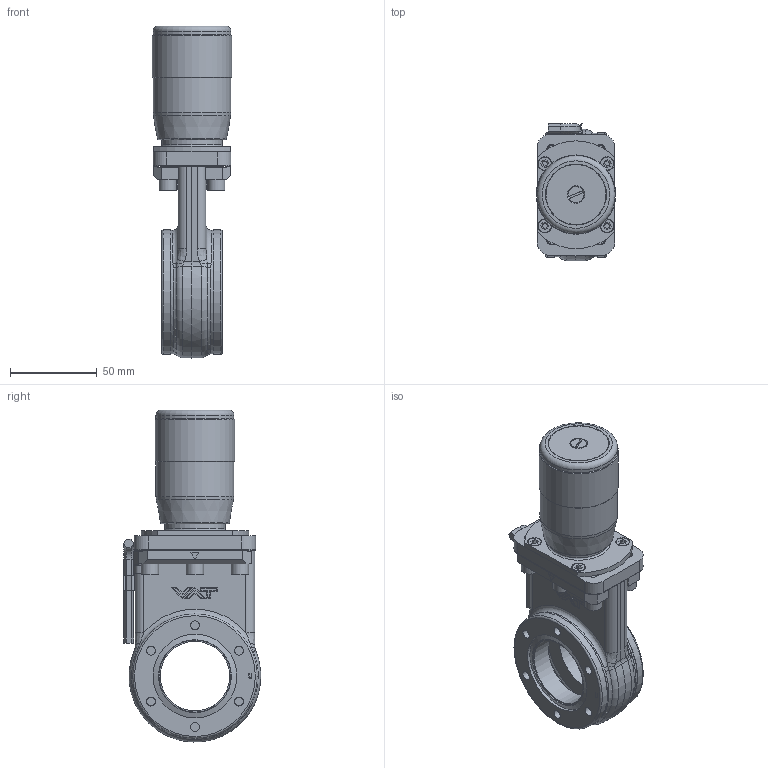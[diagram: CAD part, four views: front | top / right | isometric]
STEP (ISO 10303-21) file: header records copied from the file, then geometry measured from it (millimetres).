
FILE_DESCRIPTION(/* description */ (''),/* implementation_level */ '2;1');
FILE_NAME(/* name */ '1025368480_203',/* time_stamp */ '2009-09-08T15:25:41+02:00',/* author */ (''),/* organization */ (''),/* preprocessor_version */ 'ST-DEVELOPER v11',/* originating_system */ 'UGS - NX 5.0',/* authorisation */ '');
FILE_SCHEMA (('CONFIG_CONTROL_DESIGN'));
Length unit declared in the file: millimetre
Products named in the file (18): 63150-01; 63172-01; 69852-01; 92412-01.2; n-6011-473.1; 66230-01.2; n-6013-444.1; 63194-01.2; 66228-01.3; 63152-01.4; 228772.1; 69968-01.1; 73280-01_1.1; 65209-01.2; 318865; 63170-r1; 68340-r1.6; 345865
Assembly tree (28 placements, depth 5):
  345865
    65209-01.2
    73280-01_1.1
    69968-01.1
    228772.1  x6
    63152-01.4
    66228-01.3
    63194-01.2
    n-6013-444.1  x4
    66230-01.2
    n-6011-473.1
    68340-r1.6
      69852-01
      63172-01
      63170-r1
        318865
          63150-01  x2
      92412-01.2
    92412-01.2  x2
Bounding box: 45.8 x 79.41 x 191.82 mm (x, y, z)
Volume: 204712.7 mm3; surface area: 128364.9 mm2
Topology: 38 solids, 38 shells, 801 faces, 1877 edges, 1205 vertices
Faces by surface type: plane 437, cylinder 206, cone 59, bspline 57, torus 33, extrusion 9
Full cylindrical faces by diameter (mm): 3.4 x2, 4 x8, 4.16 x1, 4.2 x1, 4.25 x4, 4.96 x6, 5 x7, 5.2 x18, 5.25 x1, 5.95 x2, 6 x18, 6.2 x10, 6.95 x2, 7.5 x4, 9.85 x1, 10 x6, 20.75 x1, 24.7 x2, 33.075 x1, 34.75 x1, 35.1 x1, 35.25 x2, 39.1 x1, 40.1 x3, 45 x2, 45.8 x1, 48.35 x3, 66.65 x3, 67.9 x3, 68.1 x2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
Entity records: 26113 total; most frequent: CARTESIAN_POINT 10386, DIRECTION 2704, ORIENTED_EDGE 2658, EDGE_CURVE 1329, AXIS2_PLACEMENT_3D 965, VERTEX_POINT 920, EDGE_LOOP 802, VECTOR 774
